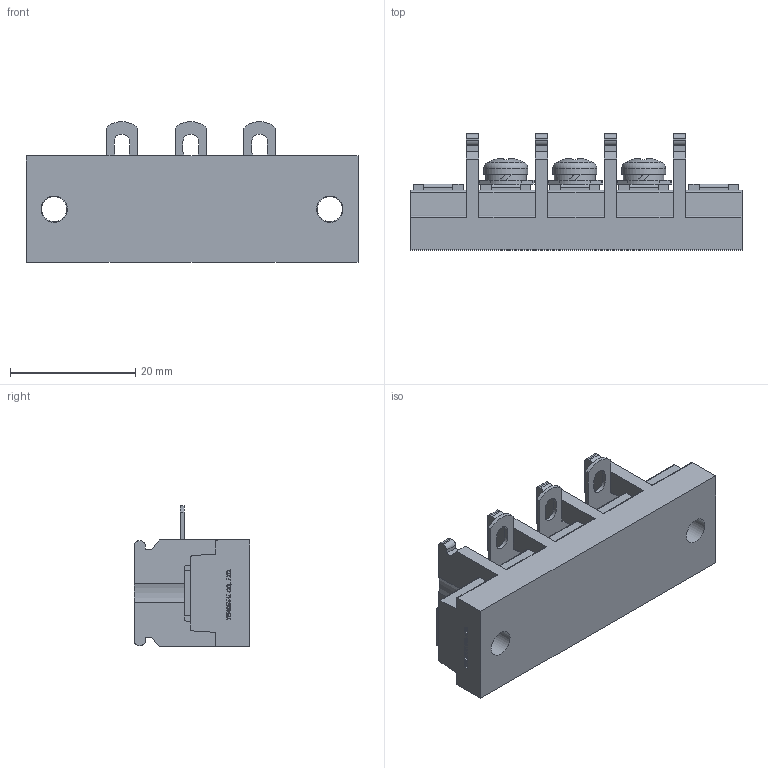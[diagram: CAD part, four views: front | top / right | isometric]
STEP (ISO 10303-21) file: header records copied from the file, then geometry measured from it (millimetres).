
FILE_DESCRIPTION(/* description */ ('Alibre Inc.'),/* implementation_level */ '2;1');
FILE_NAME(/* name */ 'export0',/* time_stamp */ '2015-10-19T19:28:33+09:00',/* author */ (''),/* organization */ (''),/* preprocessor_version */ 'ST-DEVELOPER v14',/* originating_system */ 'Alibre',/* authorisation */ '');
FILE_SCHEMA (('CONFIG_CONTROL_DESIGN'));
Length unit declared in the file: centimetre
Products named in the file (1): ID_1
Bounding box: 53 x 18.5 x 22.5 mm (x, y, z)
Volume: 9385.6 mm3; surface area: 5841.3 mm2
Topology: 1 solids, 1 shells, 852 faces, 2348 edges, 1539 vertices
Faces by surface type: plane 648, bspline 104, cylinder 79, cone 12, torus 6, sphere 3
Full cylindrical faces by diameter (mm): 4 x5, 4.2 x5, 6.5 x3, 7 x3
Entity records: 25610 total; most frequent: CARTESIAN_POINT 5571, ORIENTED_EDGE 4636, DIRECTION 3035, EDGE_CURVE 2318, VECTOR 1746, LINE 1746, VERTEX_POINT 1528, EDGE_LOOP 952
